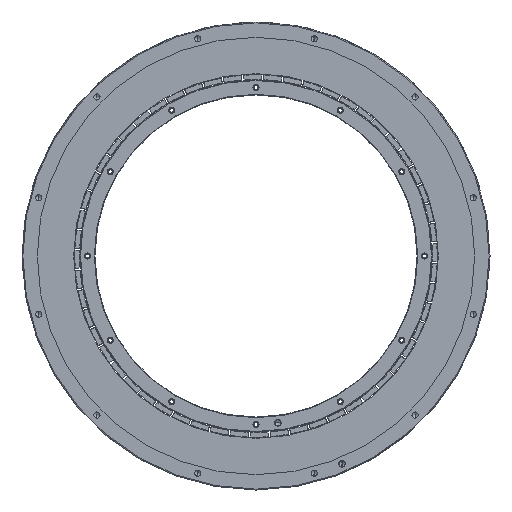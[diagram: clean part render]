
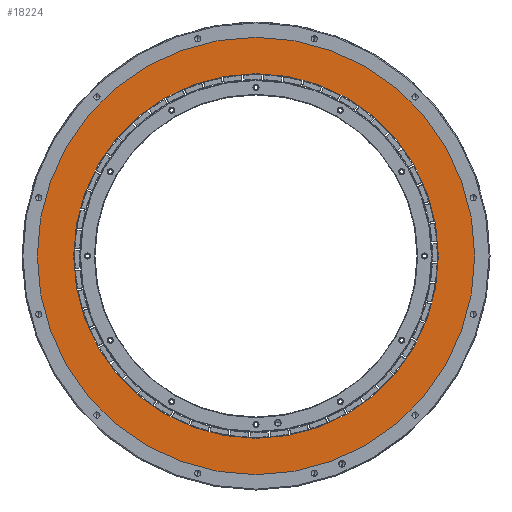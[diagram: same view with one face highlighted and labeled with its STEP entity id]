
A CAD part, front view. The second image highlights one B-rep face of the part: STEP entity #18224.
In plain terms, the highlighted planar face has unit normal (0, -1, 0).
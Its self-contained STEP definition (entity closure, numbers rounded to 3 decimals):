
#625 = CARTESIAN_POINT ( 'NONE',  ( 0., -44., 0. ) ) ;
#668 = VERTEX_POINT ( 'NONE', #15734 ) ;
#2574 = ORIENTED_EDGE ( 'NONE', *, *, #16194, .T. ) ;
#4170 = CARTESIAN_POINT ( 'NONE',  ( 0., -44., 179.93 ) ) ;
#4200 = CARTESIAN_POINT ( 'NONE',  ( 0., -44., 150. ) ) ;
#6487 = DIRECTION ( 'NONE',  ( 0., -1., 0. ) ) ;
#7398 = EDGE_LOOP ( 'NONE', ( #22557, #24718 ) ) ;
#7767 = DIRECTION ( 'NONE',  ( 0., -1., 0. ) ) ;
#8304 = DIRECTION ( 'NONE',  ( 0., -1., 0. ) ) ;
#8424 = AXIS2_PLACEMENT_3D ( 'NONE', #625, #8304, #20799 ) ;
#9048 = VERTEX_POINT ( 'NONE', #4170 ) ;
#11224 = DIRECTION ( 'NONE',  ( 0., 0., -1. ) ) ;
#11403 = FACE_OUTER_BOUND ( 'NONE', #22294, .T. ) ;
#11443 = CIRCLE ( 'NONE', #31443, 179.93 ) ;
#12032 = CIRCLE ( 'NONE', #25516, 150. ) ;
#13817 = CARTESIAN_POINT ( 'NONE',  ( 0., -44., 0. ) ) ;
#14263 = CIRCLE ( 'NONE', #8424, 150. ) ;
#14316 = CARTESIAN_POINT ( 'NONE',  ( 0., -44., 0. ) ) ;
#15734 = CARTESIAN_POINT ( 'NONE',  ( 0., -44., -150. ) ) ;
#16004 = CIRCLE ( 'NONE', #18163, 179.93 ) ;
#16194 = EDGE_CURVE ( 'NONE', #20534, #9048, #16004, .T. ) ;
#18077 = DIRECTION ( 'NONE',  ( 0., 0., -1. ) ) ;
#18163 = AXIS2_PLACEMENT_3D ( 'NONE', #14316, #26866, #24616 ) ;
#18224 = ADVANCED_FACE ( 'NONE', ( #27309, #11403 ), #31728, .T. ) ;
#18773 = CARTESIAN_POINT ( 'NONE',  ( 0., -44., -179.93 ) ) ;
#19088 = DIRECTION ( 'NONE',  ( 0., 0., -1. ) ) ;
#20534 = VERTEX_POINT ( 'NONE', #18773 ) ;
#20799 = DIRECTION ( 'NONE',  ( 0., 0., -1. ) ) ;
#21694 = CARTESIAN_POINT ( 'NONE',  ( 0., -44., 0. ) ) ;
#22056 = AXIS2_PLACEMENT_3D ( 'NONE', #21694, #6487, #11224 ) ;
#22294 = EDGE_LOOP ( 'NONE', ( #2574, #33517 ) ) ;
#22557 = ORIENTED_EDGE ( 'NONE', *, *, #26759, .F. ) ;
#23132 = CARTESIAN_POINT ( 'NONE',  ( 0., -44., 0. ) ) ;
#24616 = DIRECTION ( 'NONE',  ( 0., 0., -1. ) ) ;
#24694 = VERTEX_POINT ( 'NONE', #4200 ) ;
#24718 = ORIENTED_EDGE ( 'NONE', *, *, #27662, .F. ) ;
#25516 = AXIS2_PLACEMENT_3D ( 'NONE', #13817, #26694, #19088 ) ;
#26694 = DIRECTION ( 'NONE',  ( 0., -1., 0. ) ) ;
#26759 = EDGE_CURVE ( 'NONE', #668, #24694, #12032, .T. ) ;
#26866 = DIRECTION ( 'NONE',  ( 0., -1., 0. ) ) ;
#27309 = FACE_BOUND ( 'NONE', #7398, .T. ) ;
#27662 = EDGE_CURVE ( 'NONE', #24694, #668, #14263, .T. ) ;
#29316 = EDGE_CURVE ( 'NONE', #9048, #20534, #11443, .T. ) ;
#31443 = AXIS2_PLACEMENT_3D ( 'NONE', #23132, #7767, #18077 ) ;
#31728 = PLANE ( 'NONE',  #22056 ) ;
#33517 = ORIENTED_EDGE ( 'NONE', *, *, #29316, .T. ) ;
